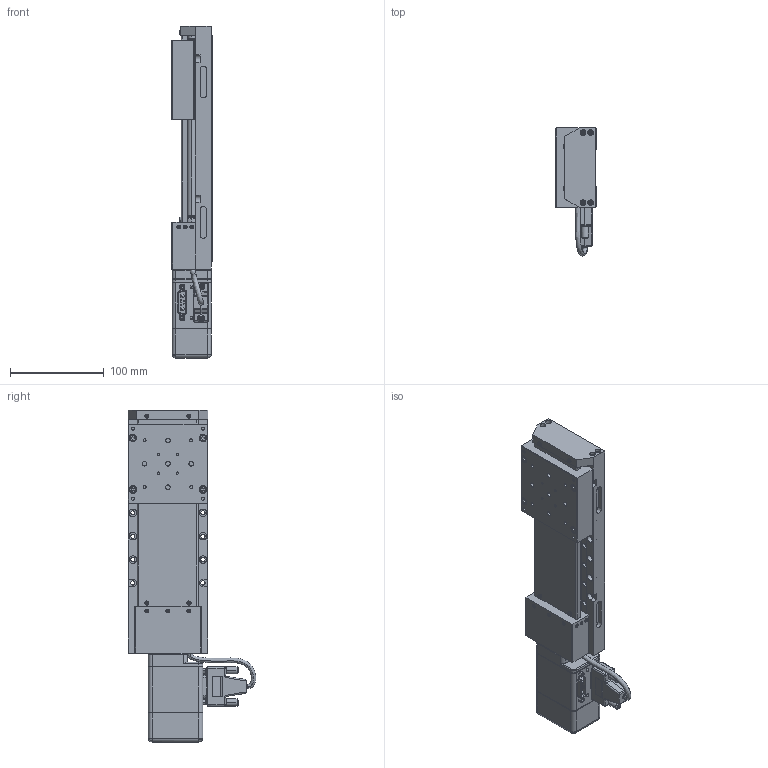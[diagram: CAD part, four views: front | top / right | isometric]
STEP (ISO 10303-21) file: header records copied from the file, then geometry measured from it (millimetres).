
FILE_DESCRIPTION (( 'STEP AP203' ), '1' );
FILE_NAME ('8MT200-100SM.STEP', '2010-06-14T11:03:40', ( 'Darius' ), ( '' ), 'SwSTEP 2.0', 'SolidWorks 2003240', '' );
FILE_SCHEMA (( 'CONFIG_CONTROL_DESIGN' ));
Products named in the file (1): 8MT200-100SM
Bounding box: 43.2 x 136.57 x 355.1 mm (x, y, z)
Volume: 890883.2 mm3; surface area: 180504.5 mm2
Topology: 1 solids, 86 shells, 2533 faces, 6988 edges, 4705 vertices
Faces by surface type: plane 1085, cylinder 901, cone 319, bspline 228
Entity records: 124489 total; most frequent: CARTESIAN_POINT 66328, ORIENTED_EDGE 13580, DIRECTION 9264, EDGE_CURVE 6790, VERTEX_POINT 4705, AXIS2_PLACEMENT_3D 3199, EDGE_LOOP 2981, B_SPLINE_CURVE_WITH_KNOTS 2919
